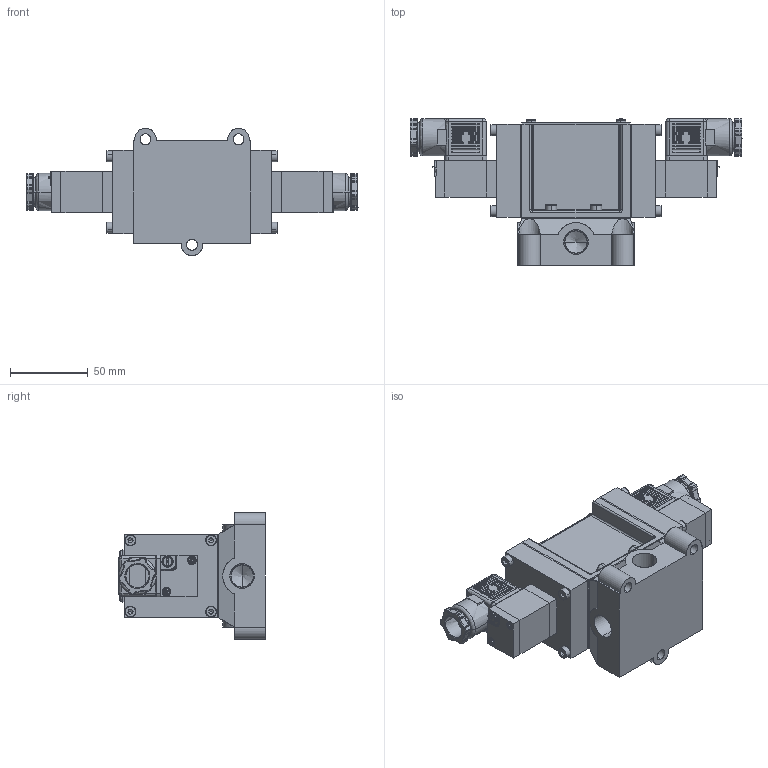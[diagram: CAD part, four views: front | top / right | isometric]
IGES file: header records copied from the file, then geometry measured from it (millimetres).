
Start section: SolidWorks IGES file using analytic representation for surfaces
Global section: file name: D:\Custom\3D繪製\PM\PM08\PMD2408#-03-#C#.IGS,1; native system: 5HSolidWorks 2014; preprocessor: SolidWorks 2014; author: Chieh_Lu; date: 150912.103750; units: millimetre
Bounding box: 214 x 94.64 x 82 mm (x, y, z)
Surface area: 132059.6 mm2 (no closed solid volume)
Topology: 0 solids, 0 shells, 1744 faces, 15667 edges, 15363 vertices
Faces by surface type: revolution 934, bspline 810
